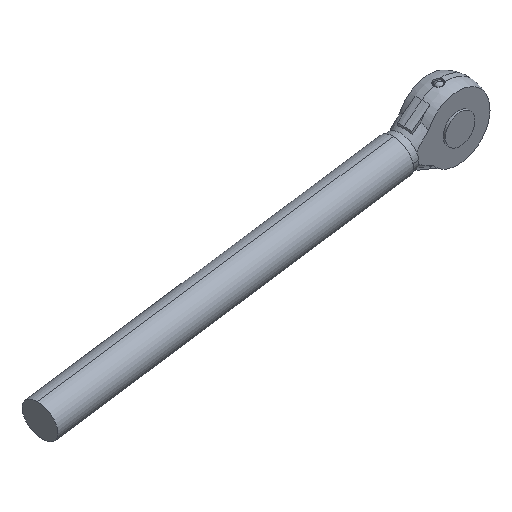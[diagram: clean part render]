
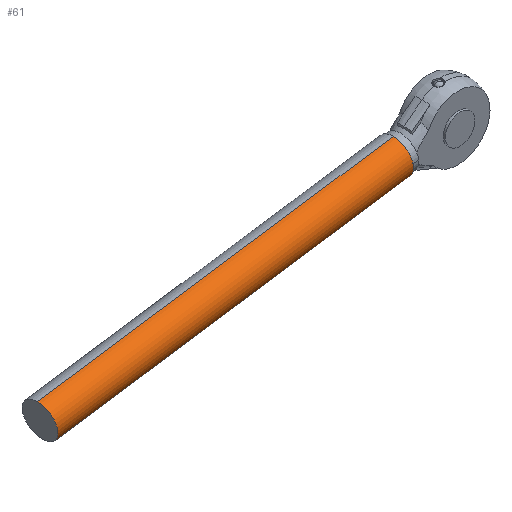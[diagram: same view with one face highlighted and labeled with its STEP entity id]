
A CAD part, isometric view. The second image highlights one B-rep face of the part: STEP entity #61.
In plain terms, the highlighted cylindrical face has radius 30 mm (diameter 60 mm), a partial arc.
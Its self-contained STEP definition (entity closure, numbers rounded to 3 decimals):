
#61 = ADVANCED_FACE ( 'NONE', ( #948 ), #949, .T. ) ;
#195 = CARTESIAN_POINT ( 'NONE',  ( -613.621, -194., 609.096 ) ) ;
#196 = DIRECTION ( 'NONE',  ( -0.99, 0., -0.144 ) ) ;
#365 = CARTESIAN_POINT ( 'NONE',  ( -553.558, -194., 617.859 ) ) ;
#383 = CARTESIAN_POINT ( 'NONE',  ( -562.22, -194., 677.23 ) ) ;
#391 = CARTESIAN_POINT ( 'NONE',  ( 46.094, -194., 705.346 ) ) ;
#397 = CARTESIAN_POINT ( 'NONE',  ( 37.432, -194., 764.718 ) ) ;
#404 = AXIS2_PLACEMENT_3D ( 'NONE', #515, #516, #517 ) ;
#405 = AXIS2_PLACEMENT_3D ( 'NONE', #512, #513, #514 ) ;
#445 = LINE ( 'NONE', #195, #1453 ) ;
#499 = DIRECTION ( 'NONE',  ( -0.99, 0., -0.144 ) ) ;
#503 = CARTESIAN_POINT ( 'NONE',  ( -622.283, -194., 668.467 ) ) ;
#512 = CARTESIAN_POINT ( 'NONE',  ( -557.889, -194., 647.544 ) ) ;
#513 = DIRECTION ( 'NONE',  ( -0.99, 0., -0.144 ) ) ;
#514 = DIRECTION ( 'NONE',  ( 0., 1., 0. ) ) ;
#515 = CARTESIAN_POINT ( 'NONE',  ( 41.763, -194., 735.032 ) ) ;
#516 = DIRECTION ( 'NONE',  ( -0.99, 0., -0.144 ) ) ;
#517 = DIRECTION ( 'NONE',  ( 0., -1., 0. ) ) ;
#783 = ORIENTED_EDGE ( 'NONE', *, *, #1144, .T. ) ;
#824 = ORIENTED_EDGE ( 'NONE', *, *, #1143, .F. ) ;
#828 = ORIENTED_EDGE ( 'NONE', *, *, #1192, .F. ) ;
#948 = FACE_OUTER_BOUND ( 'NONE', #1050, .T. ) ;
#949 = CYLINDRICAL_SURFACE ( 'NONE', #1408, 30. ) ;
#1000 = VERTEX_POINT ( 'NONE', #397 ) ;
#1007 = VERTEX_POINT ( 'NONE', #391 ) ;
#1019 = VERTEX_POINT ( 'NONE', #383 ) ;
#1050 = EDGE_LOOP ( 'NONE', ( #783, #1325, #824, #828 ) ) ;
#1065 = VERTEX_POINT ( 'NONE', #365 ) ;
#1085 = DIRECTION ( 'NONE',  ( 0.144, 0., -0.99 ) ) ;
#1090 = DIRECTION ( 'NONE',  ( -0.99, 0., -0.144 ) ) ;
#1113 = CARTESIAN_POINT ( 'NONE',  ( -617.952, -194., 638.781 ) ) ;
#1141 = EDGE_CURVE ( 'NONE', #1000, #1019, #1432, .T. ) ;
#1143 = EDGE_CURVE ( 'NONE', #1065, #1019, #1452, .T. ) ;
#1144 = EDGE_CURVE ( 'NONE', #1007, #1000, #1443, .T. ) ;
#1192 = EDGE_CURVE ( 'NONE', #1007, #1065, #445, .T. ) ;
#1325 = ORIENTED_EDGE ( 'NONE', *, *, #1141, .T. ) ;
#1408 = AXIS2_PLACEMENT_3D ( 'NONE', #1113, #1090, #1085 ) ;
#1432 = LINE ( 'NONE', #503, #1436 ) ;
#1436 = VECTOR ( 'NONE', #499, 1000. ) ;
#1443 = CIRCLE ( 'NONE', #404, 30. ) ;
#1452 = CIRCLE ( 'NONE', #405, 30. ) ;
#1453 = VECTOR ( 'NONE', #196, 1000. ) ;
